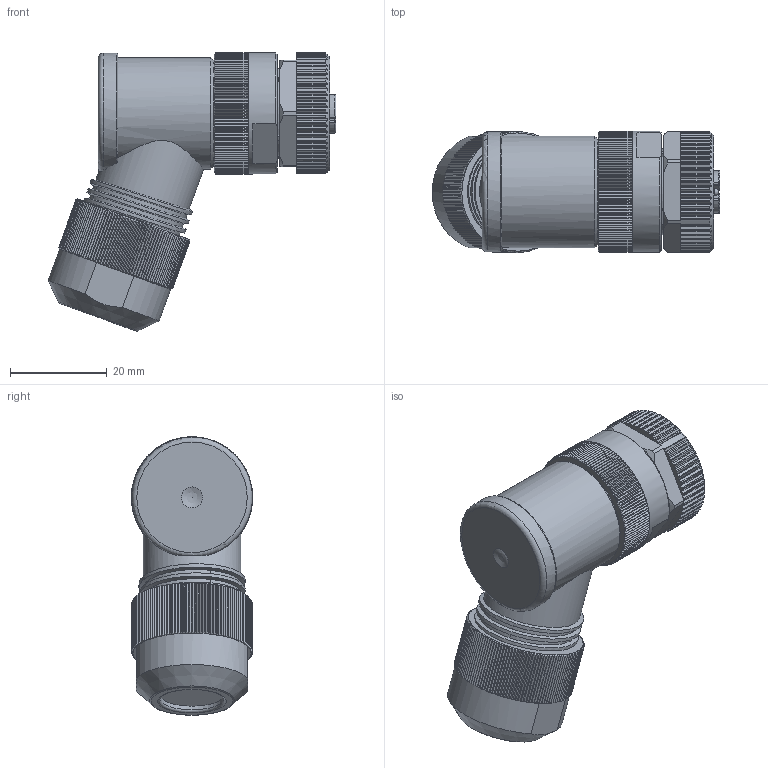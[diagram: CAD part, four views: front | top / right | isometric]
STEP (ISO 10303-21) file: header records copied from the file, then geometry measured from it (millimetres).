
FILE_DESCRIPTION(/* description */ (''),/* implementation_level */ '2;1');
FILE_NAME(/* name */ '99 0700 370 05 004_00.stp',/* time_stamp */ '2022-03-14T15:28:05+01:00',/* author */ (''),/* organization */ (''),/* preprocessor_version */ 'ST-DEVELOPER v16',/* originating_system */ 'SIEMENS PLM Software NX 11.0',/* authorisation */ '');
FILE_SCHEMA (('AUTOMOTIVE_DESIGN { 1 0 10303 214 3 1 1 1 }'));
Length unit declared in the file: millimetre
Products named in the file (1): shol2B5C4BC0q1ke
Bounding box: 59.32 x 25 x 57.41 mm (x, y, z)
Volume: 34406.8 mm3; surface area: 9350.6 mm2
Topology: 1 solids, 1 shells, 1239 faces, 3608 edges, 2385 vertices
Faces by surface type: plane 847, cylinder 319, bspline 24, torus 22, cone 20, extrusion 5, sphere 2
Full cylindrical faces by diameter (mm): 1.5 x1, 1.6 x4, 10.917 x1, 12.1 x1, 13.2 x1, 20.14 x2, 21.773 x1, 23 x1, 25 x1
Entity records: 44701 total; most frequent: CARTESIAN_POINT 13677, ORIENTED_EDGE 7114, DIRECTION 5720, EDGE_CURVE 3557, VERTEX_POINT 2366, AXIS2_PLACEMENT_3D 2066, VECTOR 1588, LINE 1583
